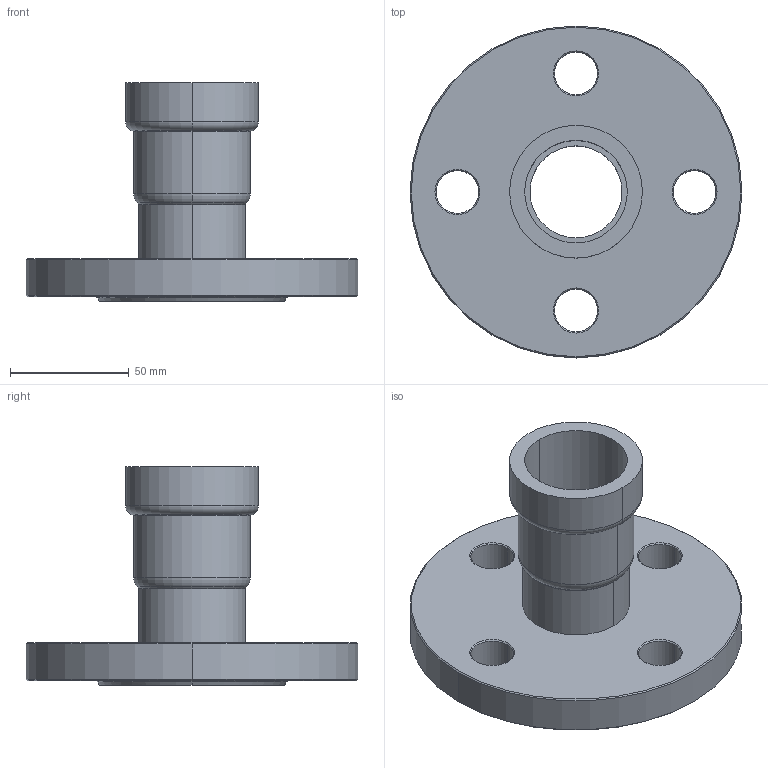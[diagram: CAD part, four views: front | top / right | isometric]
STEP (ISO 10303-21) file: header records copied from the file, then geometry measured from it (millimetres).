
FILE_DESCRIPTION(('Creo Elements/Direct Modeling STEP Export'),'2;1');
FILE_NAME('C9426_1-1-4.stp','2020-07-17T11:26:08',(''),(''),'PTC Creo Elements/Direct Modeling STEP processor for AP214 (Solid Model)','PTC Creo Elements/Direct Modeling 19.0C 15-Aug-2015 (C) Parametric Technology GmbH','');
FILE_SCHEMA(('AUTOMOTIVE_DESIGN { 1 0 10303 214 1 1 1 1 }'));
Length unit declared in the file: millimetre
Products named in the file (2): C9426_1-1-4
Assembly tree (1 placements, depth 2):
  C9426_1-1-4
    C9426_1-1-4
Bounding box: 140 x 140 x 92.3 mm (x, y, z)
Volume: 260287.5 mm3; surface area: 61898.8 mm2
Topology: 1 solids, 1 shells, 90 faces, 199 edges, 121 vertices
Faces by surface type: torus 28, cone 26, cylinder 20, plane 16
Entity records: 2504 total; most frequent: CARTESIAN_POINT 587, ORIENTED_EDGE 398, DIRECTION 394, EDGE_CURVE 199, AXIS2_PLACEMENT_3D 174, VERTEX_POINT 121, EDGE_LOOP 110, FACE_OUTER_BOUND 90
